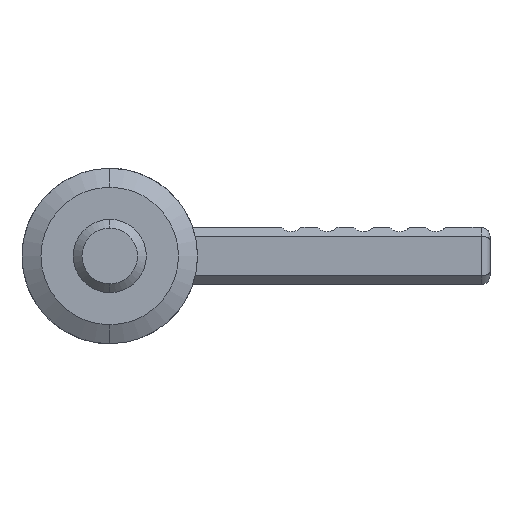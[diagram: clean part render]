
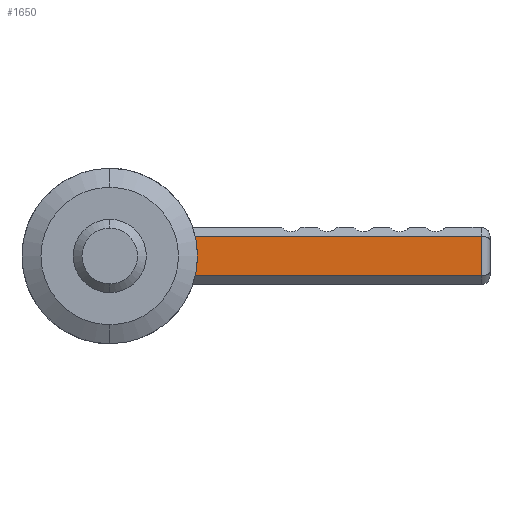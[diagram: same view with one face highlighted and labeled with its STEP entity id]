
A CAD part, front view. The second image highlights one B-rep face of the part: STEP entity #1650.
In plain terms, the highlighted planar face has unit normal (0, -1, 0).
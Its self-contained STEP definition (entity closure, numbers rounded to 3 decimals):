
#420 = DIRECTION ( 'NONE',  ( 0., 0., 1. ) ) ;
#421 = DIRECTION ( 'NONE',  ( 0., -1., 0. ) ) ;
#422 = CARTESIAN_POINT ( 'NONE',  ( 0., 35., 0. ) ) ;
#423 = AXIS2_PLACEMENT_3D ( 'NONE', #422, #421, #420 ) ;
#424 = CIRCLE ( 'NONE', #423, 3.299 ) ;
#537 = CARTESIAN_POINT ( 'NONE',  ( 0., 35., 3.299 ) ) ;
#635 = EDGE_CURVE ( 'NONE', #682, #980, #424, .T. ) ;
#682 = VERTEX_POINT ( 'NONE', #537 ) ;
#794 = EDGE_CURVE ( 'NONE', #980, #977, #2018, .T. ) ;
#977 = VERTEX_POINT ( 'NONE', #2370 ) ;
#980 = VERTEX_POINT ( 'NONE', #2364 ) ;
#1005 = VERTEX_POINT ( 'NONE', #2378 ) ;
#1006 = EDGE_LOOP ( 'NONE', ( #1013, #1012, #1727, #1720, #1198, #1127, #1129, #1130 ) ) ;
#1007 = VERTEX_POINT ( 'NONE', #2377 ) ;
#1009 = ORIENTED_EDGE ( 'NONE', *, *, #1647, .F. ) ;
#1011 = EDGE_CURVE ( 'NONE', #1005, #1736, #2376, .T. ) ;
#1012 = ORIENTED_EDGE ( 'NONE', *, *, #1011, .T. ) ;
#1013 = ORIENTED_EDGE ( 'NONE', *, *, #1014, .T. ) ;
#1014 = EDGE_CURVE ( 'NONE', #1007, #1005, #2372, .T. ) ;
#1022 = VERTEX_POINT ( 'NONE', #2418 ) ;
#1023 = EDGE_CURVE ( 'NONE', #1032, #1022, #2414, .T. ) ;
#1032 = VERTEX_POINT ( 'NONE', #2397 ) ;
#1127 = ORIENTED_EDGE ( 'NONE', *, *, #635, .T. ) ;
#1129 = ORIENTED_EDGE ( 'NONE', *, *, #794, .T. ) ;
#1130 = ORIENTED_EDGE ( 'NONE', *, *, #1131, .T. ) ;
#1131 = EDGE_CURVE ( 'NONE', #977, #1007, #2568, .T. ) ;
#1197 = EDGE_CURVE ( 'NONE', #1717, #682, #2698, .T. ) ;
#1198 = ORIENTED_EDGE ( 'NONE', *, *, #1197, .T. ) ;
#1647 = EDGE_CURVE ( 'NONE', #1022, #1032, #3476, .T. ) ;
#1650 = ADVANCED_FACE ( 'NONE', ( #3471, #3470 ), #3469, .F. ) ;
#1652 = EDGE_LOOP ( 'NONE', ( #1653, #1009 ) ) ;
#1653 = ORIENTED_EDGE ( 'NONE', *, *, #1023, .F. ) ;
#1716 = VERTEX_POINT ( 'NONE', #3604 ) ;
#1717 = VERTEX_POINT ( 'NONE', #3603 ) ;
#1718 = EDGE_CURVE ( 'NONE', #1716, #1717, #3602, .T. ) ;
#1720 = ORIENTED_EDGE ( 'NONE', *, *, #1718, .T. ) ;
#1721 = EDGE_CURVE ( 'NONE', #1736, #1716, #3597, .T. ) ;
#1727 = ORIENTED_EDGE ( 'NONE', *, *, #1721, .T. ) ;
#1736 = VERTEX_POINT ( 'NONE', #3628 ) ;
#2014 = DIRECTION ( 'NONE',  ( 0., 0., 1. ) ) ;
#2015 = DIRECTION ( 'NONE',  ( 0., -1., 0. ) ) ;
#2016 = CARTESIAN_POINT ( 'NONE',  ( 0., 35., 0. ) ) ;
#2017 = AXIS2_PLACEMENT_3D ( 'NONE', #2016, #2015, #2014 ) ;
#2018 = CIRCLE ( 'NONE', #2017, 3.299 ) ;
#2364 = CARTESIAN_POINT ( 'NONE',  ( 0., 35., -3.299 ) ) ;
#2370 = CARTESIAN_POINT ( 'NONE',  ( 2.718, 35., -1.87 ) ) ;
#2371 = CARTESIAN_POINT ( 'NONE',  ( 26., 35., -1.349 ) ) ;
#2372 = LINE ( 'NONE', #2371, #2431 ) ;
#2373 = DIRECTION ( 'NONE',  ( 0., 0., 1. ) ) ;
#2374 = VECTOR ( 'NONE', #2373, 1000. ) ;
#2375 = CARTESIAN_POINT ( 'NONE',  ( 25.399, 35., 1.349 ) ) ;
#2376 = LINE ( 'NONE', #2375, #2374 ) ;
#2377 = CARTESIAN_POINT ( 'NONE',  ( 3.708, 35., -1.349 ) ) ;
#2378 = CARTESIAN_POINT ( 'NONE',  ( 25.399, 35., -1.349 ) ) ;
#2397 = CARTESIAN_POINT ( 'NONE',  ( 0., 35., -1.875 ) ) ;
#2410 = DIRECTION ( 'NONE',  ( 0., 0., -1. ) ) ;
#2411 = DIRECTION ( 'NONE',  ( 0., -1., 0. ) ) ;
#2412 = CARTESIAN_POINT ( 'NONE',  ( 0., 35., 0. ) ) ;
#2413 = AXIS2_PLACEMENT_3D ( 'NONE', #2412, #2411, #2410 ) ;
#2414 = CIRCLE ( 'NONE', #2413, 1.875 ) ;
#2418 = CARTESIAN_POINT ( 'NONE',  ( 0., 35., 1.875 ) ) ;
#2430 = DIRECTION ( 'NONE',  ( 1., 0., 0. ) ) ;
#2431 = VECTOR ( 'NONE', #2430, 1000. ) ;
#2564 = DIRECTION ( 'NONE',  ( 0., 0., 1. ) ) ;
#2565 = DIRECTION ( 'NONE',  ( 0., 1., 0. ) ) ;
#2566 = CARTESIAN_POINT ( 'NONE',  ( 3.708, 35., -2.551 ) ) ;
#2567 = AXIS2_PLACEMENT_3D ( 'NONE', #2566, #2565, #2564 ) ;
#2568 = CIRCLE ( 'NONE', #2567, 1.201 ) ;
#2695 = DIRECTION ( 'NONE',  ( 0., 0., 1. ) ) ;
#2696 = DIRECTION ( 'NONE',  ( 0., -1., 0. ) ) ;
#2697 = AXIS2_PLACEMENT_3D ( 'NONE', #2704, #2696, #2695 ) ;
#2698 = CIRCLE ( 'NONE', #2697, 3.299 ) ;
#2704 = CARTESIAN_POINT ( 'NONE',  ( 0., 35., 0. ) ) ;
#3465 = DIRECTION ( 'NONE',  ( 0., 0., 1. ) ) ;
#3466 = DIRECTION ( 'NONE',  ( 0., 1., 0. ) ) ;
#3467 = CARTESIAN_POINT ( 'NONE',  ( -1.875, 35., 0. ) ) ;
#3468 = AXIS2_PLACEMENT_3D ( 'NONE', #3467, #3466, #3465 ) ;
#3469 = PLANE ( 'NONE',  #3468 ) ;
#3470 = FACE_OUTER_BOUND ( 'NONE', #1006, .T. ) ;
#3471 = FACE_BOUND ( 'NONE', #1652, .T. ) ;
#3472 = DIRECTION ( 'NONE',  ( 0., 0., -1. ) ) ;
#3473 = DIRECTION ( 'NONE',  ( 0., -1., 0. ) ) ;
#3474 = CARTESIAN_POINT ( 'NONE',  ( 0., 35., 0. ) ) ;
#3475 = AXIS2_PLACEMENT_3D ( 'NONE', #3474, #3473, #3472 ) ;
#3476 = CIRCLE ( 'NONE', #3475, 1.875 ) ;
#3594 = DIRECTION ( 'NONE',  ( -1., 0., 0. ) ) ;
#3595 = VECTOR ( 'NONE', #3594, 1000. ) ;
#3596 = CARTESIAN_POINT ( 'NONE',  ( 3.708, 35., 1.349 ) ) ;
#3597 = LINE ( 'NONE', #3596, #3595 ) ;
#3598 = DIRECTION ( 'NONE',  ( 0., 0., 1. ) ) ;
#3599 = DIRECTION ( 'NONE',  ( 0., 1., 0. ) ) ;
#3600 = CARTESIAN_POINT ( 'NONE',  ( 3.708, 35., 2.551 ) ) ;
#3601 = AXIS2_PLACEMENT_3D ( 'NONE', #3600, #3599, #3598 ) ;
#3602 = CIRCLE ( 'NONE', #3601, 1.201 ) ;
#3603 = CARTESIAN_POINT ( 'NONE',  ( 2.718, 35., 1.87 ) ) ;
#3604 = CARTESIAN_POINT ( 'NONE',  ( 3.708, 35., 1.349 ) ) ;
#3628 = CARTESIAN_POINT ( 'NONE',  ( 25.399, 35., 1.349 ) ) ;
